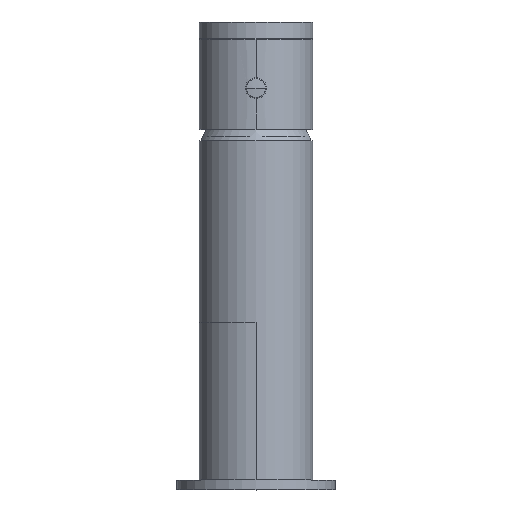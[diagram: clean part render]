
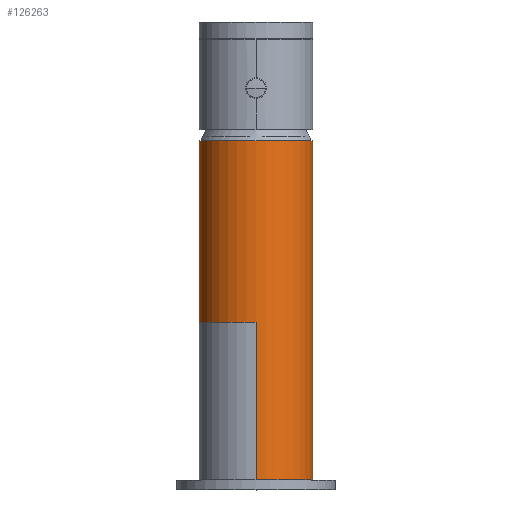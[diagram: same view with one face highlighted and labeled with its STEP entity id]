
A CAD part, top view. The second image highlights one B-rep face of the part: STEP entity #126263.
In plain terms, the highlighted cylindrical face has radius 17.5 mm (diameter 35 mm), a partial arc.
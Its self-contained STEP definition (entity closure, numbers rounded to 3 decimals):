
#43710=CARTESIAN_POINT('',(0.,-48.5,0.));
#43711=DIRECTION('',(0.,-1.,0.));
#43712=DIRECTION('',(0.,0.,-1.));
#43713=AXIS2_PLACEMENT_3D('',#43710,#43711,#43712);
#43715=CARTESIAN_POINT('',(0.,0.,0.));
#43716=DIRECTION('',(0.,-1.,0.));
#43717=DIRECTION('',(0.,0.,1.));
#43718=AXIS2_PLACEMENT_3D('',#43715,#43716,#43717);
#43725=DIRECTION('',(0.,-1.,0.));
#43726=VECTOR('',#43725,48.5);
#43727=CARTESIAN_POINT('',(0.,0.,-17.5));
#43728=LINE('',#43727,#43726);
#43729=CARTESIAN_POINT('',(0.,0.,0.));
#43730=DIRECTION('',(0.,-1.,0.));
#43731=DIRECTION('',(0.,0.,-1.));
#43732=AXIS2_PLACEMENT_3D('',#43729,#43730,#43731);
#43734=DIRECTION('',(0.,-1.,0.));
#43735=VECTOR('',#43734,49.7);
#43736=CARTESIAN_POINT('',(17.5,49.7,0.));
#43737=LINE('',#43736,#43735);
#43743=DIRECTION('',(0.,-1.,0.));
#43744=VECTOR('',#43743,49.7);
#43745=CARTESIAN_POINT('',(-17.5,49.7,0.));
#43746=LINE('',#43745,#43744);
#43747=DIRECTION('',(0.,-1.,0.));
#43748=VECTOR('',#43747,48.5);
#43749=CARTESIAN_POINT('',(0.,0.,17.5));
#43750=LINE('',#43749,#43748);
#43798=DIRECTION('',(0.,1.,0.));
#43799=VECTOR('',#43798,6.);
#43800=CARTESIAN_POINT('',(17.5,49.7,0.));
#43801=LINE('',#43800,#43799);
#43806=DIRECTION('',(0.,-1.,0.));
#43807=VECTOR('',#43806,6.);
#43808=CARTESIAN_POINT('',(-17.5,55.7,0.));
#43809=LINE('',#43808,#43807);
#43814=CARTESIAN_POINT('',(0.,55.7,0.));
#43815=DIRECTION('',(0.,1.,0.));
#43816=DIRECTION('',(-1.,0.,0.));
#43817=AXIS2_PLACEMENT_3D('',#43814,#43815,#43816);
#71660=CARTESIAN_POINT('',(0.,0.,-17.5));
#71661=CARTESIAN_POINT('',(17.5,0.,0.));
#71662=VERTEX_POINT('',#71660);
#71663=VERTEX_POINT('',#71661);
#71664=CARTESIAN_POINT('',(0.,0.,17.5));
#71665=CARTESIAN_POINT('',(-17.5,0.,0.));
#71666=VERTEX_POINT('',#71664);
#71667=VERTEX_POINT('',#71665);
#71696=CARTESIAN_POINT('',(-17.5,55.7,0.));
#71697=CARTESIAN_POINT('',(17.5,55.7,0.));
#71698=VERTEX_POINT('',#71696);
#71699=VERTEX_POINT('',#71697);
#71736=CARTESIAN_POINT('',(17.5,49.7,0.));
#71737=CARTESIAN_POINT('',(-17.5,49.7,0.));
#71738=VERTEX_POINT('',#71736);
#71739=VERTEX_POINT('',#71737);
#73972=CARTESIAN_POINT('',(0.,-48.5,-17.5));
#73973=CARTESIAN_POINT('',(0.,-48.5,17.5));
#73974=VERTEX_POINT('',#73972);
#73975=VERTEX_POINT('',#73973);
#126237=CARTESIAN_POINT('',(0.,-2.485,0.));
#126238=DIRECTION('',(0.,1.,0.));
#126239=DIRECTION('',(1.,0.,0.));
#126240=AXIS2_PLACEMENT_3D('',#126237,#126238,#126239);
#126241=CYLINDRICAL_SURFACE('',#126240,17.5);
#126242=ORIENTED_EDGE('',*,*,#126230,.T.);
#126244=ORIENTED_EDGE('',*,*,#126243,.F.);
#126246=ORIENTED_EDGE('',*,*,#126245,.T.);
#126248=ORIENTED_EDGE('',*,*,#126247,.F.);
#126250=ORIENTED_EDGE('',*,*,#126249,.F.);
#126252=ORIENTED_EDGE('',*,*,#126251,.T.);
#126254=ORIENTED_EDGE('',*,*,#126253,.F.);
#126256=ORIENTED_EDGE('',*,*,#126255,.T.);
#126258=ORIENTED_EDGE('',*,*,#126257,.F.);
#126260=ORIENTED_EDGE('',*,*,#126259,.T.);
#126261=EDGE_LOOP('',(#126242,#126244,#126246,#126248,#126250,#126252,#126254,
#126256,#126258,#126260));
#126262=FACE_OUTER_BOUND('',#126261,.F.);
#126263=ADVANCED_FACE('',(#126262),#126241,.T.);
#43714=CIRCLE('',#43713,17.5);
#43719=CIRCLE('',#43718,17.5);
#43733=CIRCLE('',#43732,17.5);
#43818=CIRCLE('',#43817,17.5);
#126230=EDGE_CURVE('',#73974,#73975,#43714,.T.);
#126243=EDGE_CURVE('',#71666,#73975,#43750,.T.);
#126245=EDGE_CURVE('',#71666,#71667,#43719,.T.);
#126247=EDGE_CURVE('',#71739,#71667,#43746,.T.);
#126249=EDGE_CURVE('',#71698,#71739,#43809,.T.);
#126251=EDGE_CURVE('',#71698,#71699,#43818,.T.);
#126253=EDGE_CURVE('',#71738,#71699,#43801,.T.);
#126255=EDGE_CURVE('',#71738,#71663,#43737,.T.);
#126257=EDGE_CURVE('',#71662,#71663,#43733,.T.);
#126259=EDGE_CURVE('',#71662,#73974,#43728,.T.);
